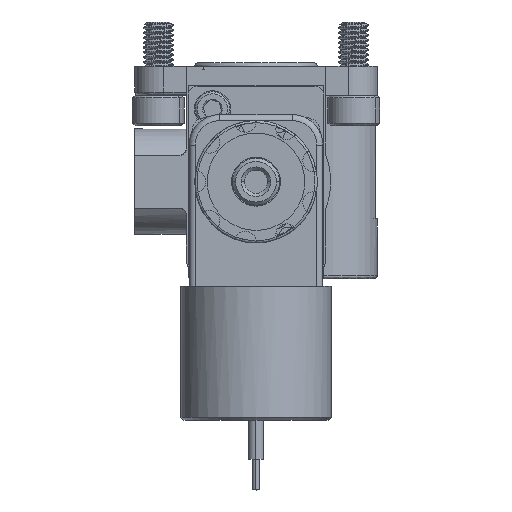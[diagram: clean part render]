
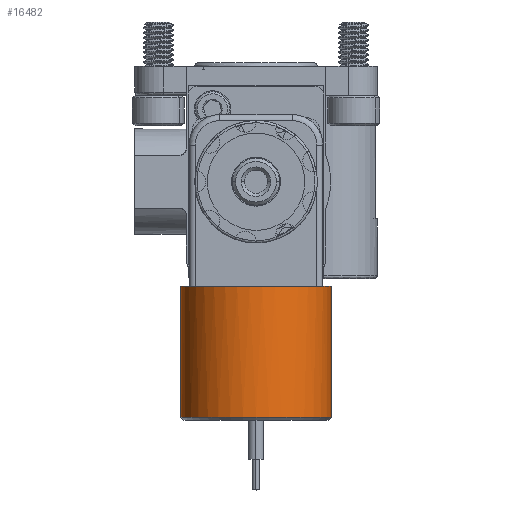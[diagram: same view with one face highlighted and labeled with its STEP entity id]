
A CAD part, left-side view. The second image highlights one B-rep face of the part: STEP entity #16482.
In plain terms, the highlighted cylindrical face has radius 12.3 mm (diameter 24.6 mm), a partial arc.
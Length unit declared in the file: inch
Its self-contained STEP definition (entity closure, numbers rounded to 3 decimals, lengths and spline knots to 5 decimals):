
#659 = LINE ( 'NONE', #74635, #105721 ) ;
#733 = CIRCLE ( 'NONE', #88356, 0.48425 ) ;
#2631 = CARTESIAN_POINT ( 'NONE',  ( -3.7023, -0.04242, -1.00793 ) ) ;
#3460 = FACE_OUTER_BOUND ( 'NONE', #6622, .T. ) ;
#5388 = DIRECTION ( 'NONE',  ( 0., 0., -1. ) ) ;
#6622 = EDGE_LOOP ( 'NONE', ( #74251, #108077, #37315, #18240, #22657, #91194 ) ) ;
#13602 = CARTESIAN_POINT ( 'NONE',  ( -3.7023, 0.44183, -1.85439 ) ) ;
#16482 = ADVANCED_FACE ( 'NONE', ( #3460 ), #41050, .T. ) ;
#18240 = ORIENTED_EDGE ( 'NONE', *, *, #52588, .T. ) ;
#22556 = CARTESIAN_POINT ( 'NONE',  ( -3.7023, -0.04242, -1.00793 ) ) ;
#22657 = ORIENTED_EDGE ( 'NONE', *, *, #109262, .T. ) ;
#29651 = AXIS2_PLACEMENT_3D ( 'NONE', #22556, #113253, #94130 ) ;
#30992 = DIRECTION ( 'NONE',  ( 0., 1., 0. ) ) ;
#32039 = EDGE_CURVE ( 'NONE', #87751, #95674, #733, .T. ) ;
#32435 = EDGE_CURVE ( 'NONE', #83671, #87751, #111408, .T. ) ;
#36822 = CARTESIAN_POINT ( 'NONE',  ( -3.7023, -0.52667, -1.00793 ) ) ;
#37315 = ORIENTED_EDGE ( 'NONE', *, *, #32039, .T. ) ;
#38170 = CARTESIAN_POINT ( 'NONE',  ( -3.92287, 0.38868, -1.00793 ) ) ;
#38473 = DIRECTION ( 'NONE',  ( 0., 0., -1. ) ) ;
#38553 = DIRECTION ( 'NONE',  ( 0., 0., -1. ) ) ;
#41050 = CYLINDRICAL_SURFACE ( 'NONE', #29651, 0.48425 ) ;
#41804 = DIRECTION ( 'NONE',  ( 0., 1., 0. ) ) ;
#47278 = EDGE_CURVE ( 'NONE', #51538, #52863, #101120, .T. ) ;
#47994 = DIRECTION ( 'NONE',  ( 0., 1., 0. ) ) ;
#49682 = AXIS2_PLACEMENT_3D ( 'NONE', #102597, #73968, #30992 ) ;
#50774 = DIRECTION ( 'NONE',  ( 0., 0., -1. ) ) ;
#51538 = VERTEX_POINT ( 'NONE', #13602 ) ;
#52588 = EDGE_CURVE ( 'NONE', #95674, #72991, #98028, .T. ) ;
#52863 = VERTEX_POINT ( 'NONE', #116678 ) ;
#56152 = AXIS2_PLACEMENT_3D ( 'NONE', #87114, #5388, #41804 ) ;
#57966 = DIRECTION ( 'NONE',  ( 0., 1., 0. ) ) ;
#58133 = CARTESIAN_POINT ( 'NONE',  ( -3.7023, 0.44183, -1.00793 ) ) ;
#58552 = CARTESIAN_POINT ( 'NONE',  ( -3.7023, -0.04242, -1.00793 ) ) ;
#72991 = VERTEX_POINT ( 'NONE', #58133 ) ;
#73968 = DIRECTION ( 'NONE',  ( 0., 0., 1. ) ) ;
#74251 = ORIENTED_EDGE ( 'NONE', *, *, #90132, .F. ) ;
#74635 = CARTESIAN_POINT ( 'NONE',  ( -3.7023, 0.44183, -1.00793 ) ) ;
#77745 = VECTOR ( 'NONE', #38553, 39.37008 ) ;
#83671 = VERTEX_POINT ( 'NONE', #36822 ) ;
#87114 = CARTESIAN_POINT ( 'NONE',  ( -3.7023, -0.04242, -1.00793 ) ) ;
#87751 = VERTEX_POINT ( 'NONE', #115607 ) ;
#88356 = AXIS2_PLACEMENT_3D ( 'NONE', #2631, #38473, #47994 ) ;
#90132 = EDGE_CURVE ( 'NONE', #83671, #52863, #106589, .T. ) ;
#91194 = ORIENTED_EDGE ( 'NONE', *, *, #47278, .T. ) ;
#92520 = DIRECTION ( 'NONE',  ( 0., 0., -1. ) ) ;
#94130 = DIRECTION ( 'NONE',  ( 0., 1., 0. ) ) ;
#95674 = VERTEX_POINT ( 'NONE', #38170 ) ;
#98028 = CIRCLE ( 'NONE', #56152, 0.48425 ) ;
#99957 = AXIS2_PLACEMENT_3D ( 'NONE', #58552, #50774, #57966 ) ;
#100584 = CARTESIAN_POINT ( 'NONE',  ( -3.7023, -0.52667, -1.00793 ) ) ;
#101120 = CIRCLE ( 'NONE', #49682, 0.48425 ) ;
#102597 = CARTESIAN_POINT ( 'NONE',  ( -3.7023, -0.04242, -1.85439 ) ) ;
#105721 = VECTOR ( 'NONE', #92520, 39.37008 ) ;
#106589 = LINE ( 'NONE', #100584, #77745 ) ;
#108077 = ORIENTED_EDGE ( 'NONE', *, *, #32435, .T. ) ;
#109262 = EDGE_CURVE ( 'NONE', #72991, #51538, #659, .T. ) ;
#111408 = CIRCLE ( 'NONE', #99957, 0.48425 ) ;
#113253 = DIRECTION ( 'NONE',  ( 0., 0., -1. ) ) ;
#115607 = CARTESIAN_POINT ( 'NONE',  ( -3.92287, -0.47352, -1.00793 ) ) ;
#116678 = CARTESIAN_POINT ( 'NONE',  ( -3.7023, -0.52667, -1.85439 ) ) ;
